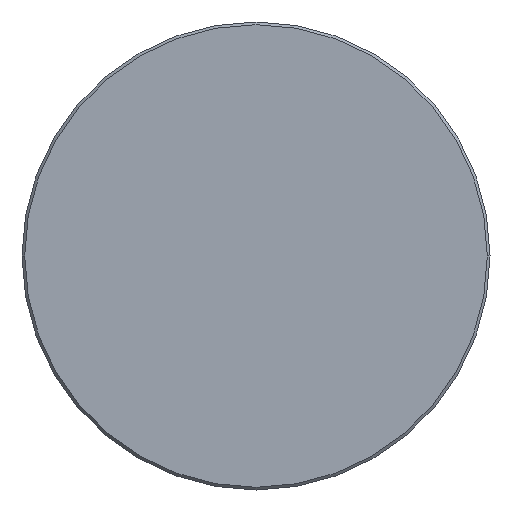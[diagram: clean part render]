
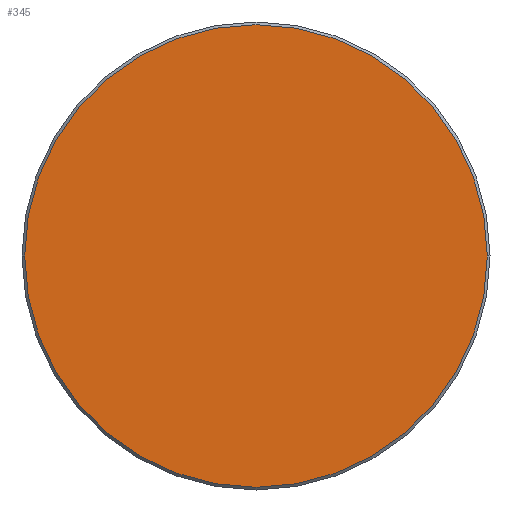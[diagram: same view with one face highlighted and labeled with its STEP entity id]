
A CAD part, left-side view. The second image highlights one B-rep face of the part: STEP entity #345.
In plain terms, the highlighted planar face has unit normal (-1, 0, 0).
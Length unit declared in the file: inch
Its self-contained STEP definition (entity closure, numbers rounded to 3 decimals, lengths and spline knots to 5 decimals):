
#7 = AXIS2_PLACEMENT_3D ( 'NONE', #222, #228, #39 ) ;
#23 = DIRECTION ( 'NONE',  ( -1., 0., 0. ) ) ;
#39 = DIRECTION ( 'NONE',  ( 0., -1., 0. ) ) ;
#40 = VERTEX_POINT ( 'NONE', #63 ) ;
#48 = CARTESIAN_POINT ( 'NONE',  ( 0., -0.33975, 0. ) ) ;
#53 = PLANE ( 'NONE',  #125 ) ;
#63 = CARTESIAN_POINT ( 'NONE',  ( 0., 0.33975, 0. ) ) ;
#125 = AXIS2_PLACEMENT_3D ( 'NONE', #173, #23, #145 ) ;
#133 = CARTESIAN_POINT ( 'NONE',  ( 0., 0., 0. ) ) ;
#145 = DIRECTION ( 'NONE',  ( 0., -1., 0. ) ) ;
#146 = EDGE_LOOP ( 'NONE', ( #339, #289 ) ) ;
#157 = FACE_OUTER_BOUND ( 'NONE', #146, .T. ) ;
#173 = CARTESIAN_POINT ( 'NONE',  ( 0., 0., 0. ) ) ;
#199 = DIRECTION ( 'NONE',  ( -1., 0., 0. ) ) ;
#222 = CARTESIAN_POINT ( 'NONE',  ( 0., 0., 0. ) ) ;
#228 = DIRECTION ( 'NONE',  ( -1., 0., 0. ) ) ;
#229 = EDGE_CURVE ( 'NONE', #373, #40, #283, .T. ) ;
#268 = AXIS2_PLACEMENT_3D ( 'NONE', #133, #199, #275 ) ;
#275 = DIRECTION ( 'NONE',  ( 0., -1., 0. ) ) ;
#283 = CIRCLE ( 'NONE', #7, 0.33975 ) ;
#284 = EDGE_CURVE ( 'NONE', #40, #373, #380, .T. ) ;
#289 = ORIENTED_EDGE ( 'NONE', *, *, #229, .T. ) ;
#339 = ORIENTED_EDGE ( 'NONE', *, *, #284, .T. ) ;
#345 = ADVANCED_FACE ( 'NONE', ( #157 ), #53, .T. ) ;
#373 = VERTEX_POINT ( 'NONE', #48 ) ;
#380 = CIRCLE ( 'NONE', #268, 0.33975 ) ;
